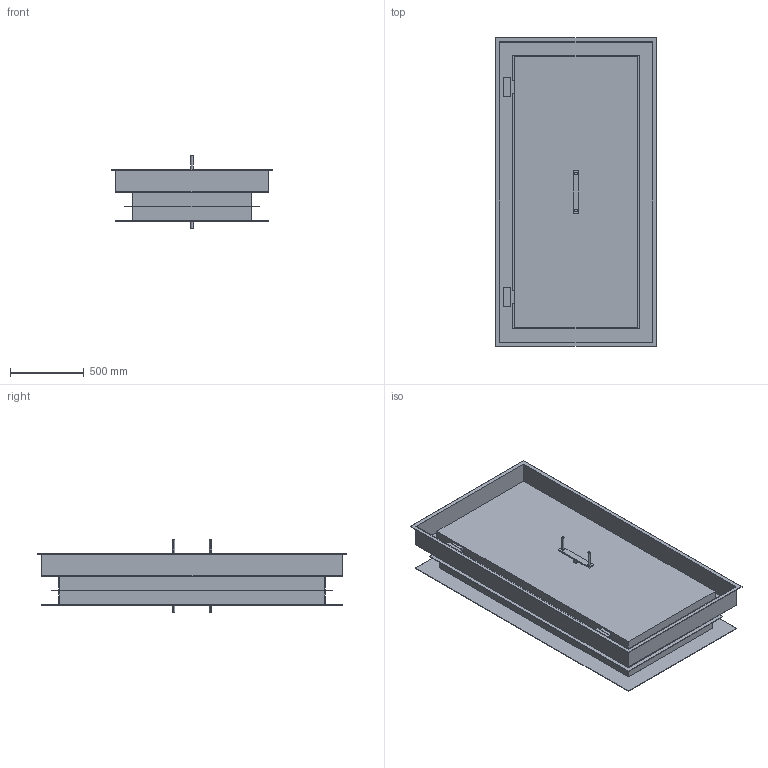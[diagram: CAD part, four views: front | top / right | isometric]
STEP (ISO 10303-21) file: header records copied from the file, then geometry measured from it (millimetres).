
FILE_DESCRIPTION((''),'2;1');
FILE_NAME('52368035','2025-02-27T11:15:32',('brma'),('HUBER SE'),'CREO PARAMETRIC BY PTC INC, 2022162','CREO PARAMETRIC BY PTC INC, 2022162','');
FILE_SCHEMA(('AUTOMOTIVE_DESIGN { 1 0 10303 214 1 1 1 1 }'));
Length unit declared in the file: millimetre
Products named in the file (1): 52368035
Bounding box: 1090 x 2090 x 495 mm (x, y, z)
Volume: 155413103.3 mm3; surface area: 11215981.1 mm2
Topology: 1 solids, 1 shells, 99 faces, 232 edges, 152 vertices
Faces by surface type: plane 87, cylinder 12
Entity records: 3690 total; most frequent: CARTESIAN_POINT 485, ORIENTED_EDGE 464, DIRECTION 454, EDGE_CURVE 232, VECTOR 208, LINE 208, VERTEX_POINT 152, AXIS2_PLACEMENT_3D 123
